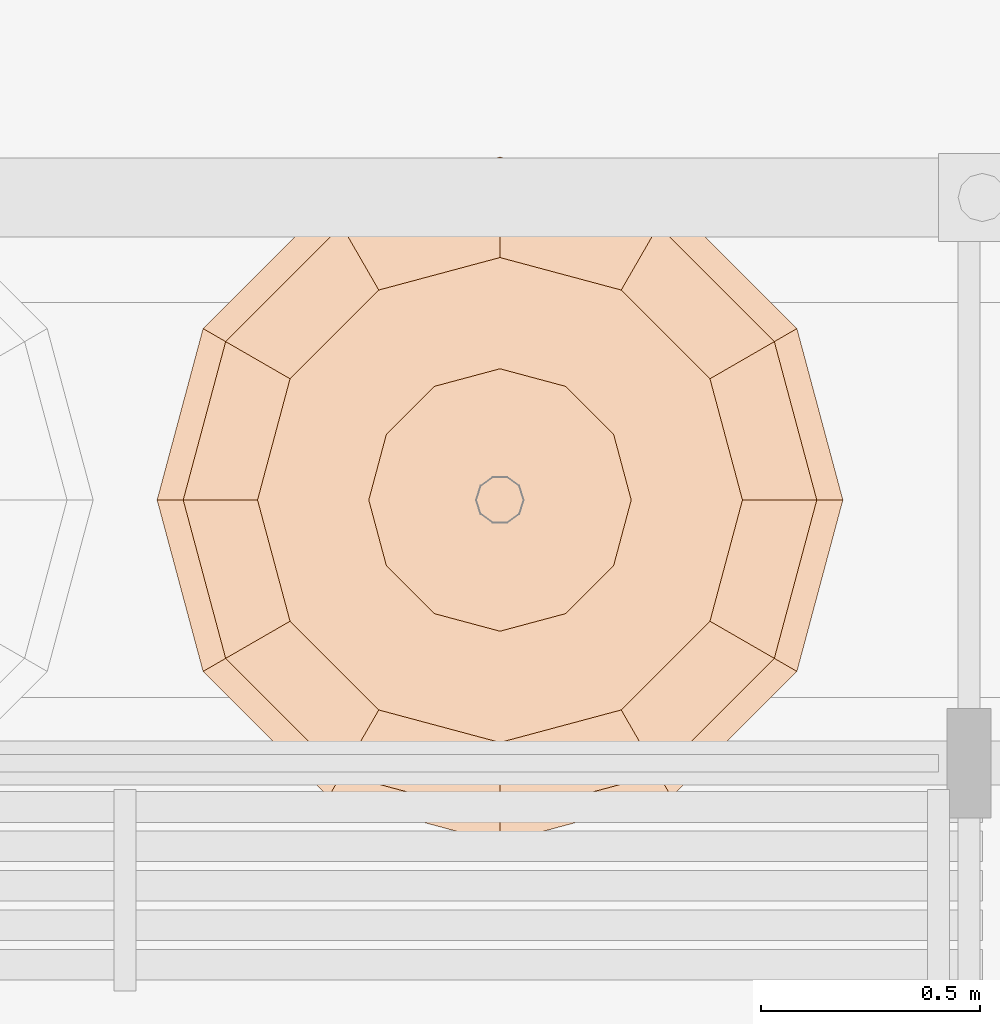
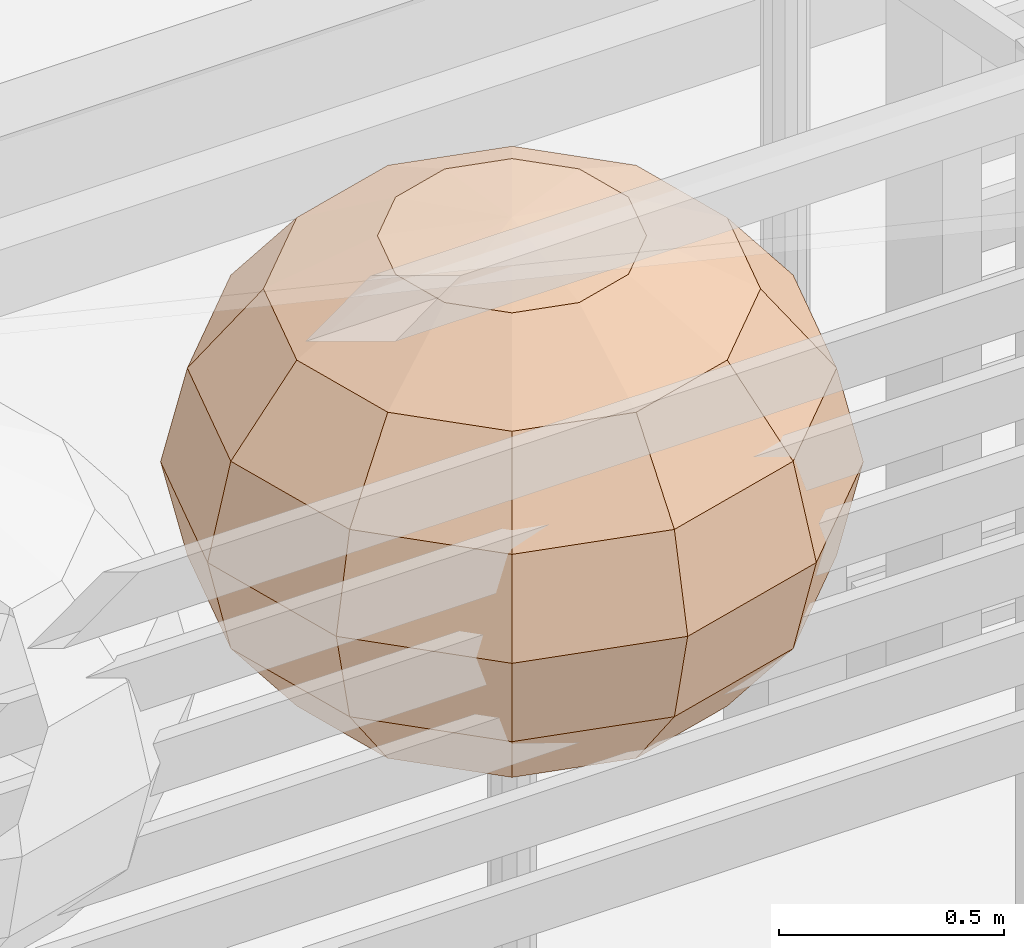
# One storey, part 168 of 177: 1 geographic element.
"""IFC4 building model written with IfcOpenShell, lengths in metres."""

from ifc_helpers import new_model, si_unit, origin, origin_with_axes, place, context, subcontext, project, spatial, triangles, element, save


model = new_model("IFC4")

# Units and contexts
model_context = context("Model", 3, precision=1e-05, world=origin_with_axes())
body_context = subcontext(model_context, "Body", "Model", "MODEL_VIEW")
ifc_project = project(units=[si_unit("LENGTHUNIT", "METRE"), si_unit("AREAUNIT", "SQUARE_METRE"), si_unit("VOLUMEUNIT", "CUBIC_METRE"), si_unit("PLANEANGLEUNIT", "RADIAN")], contexts=[model_context])

# Site, building, storey
site_placement = place(None, origin_with_axes())
site = spatial("IfcSite", under=ifc_project, at=site_placement, Name="Predio Los Mangos - Morales, San Martín", CompositionType="ELEMENT")
building_placement = place(site_placement, origin())
building = spatial("IfcBuilding", under=site, at=building_placement, Name="Hogar de Refugio Temporal", CompositionType="ELEMENT")
storey_placement = place(building_placement, origin())
storey = spatial("IfcBuildingStorey", under=building, at=storey_placement, Name="NIVEL 1 (NPT +0.00)", CompositionType="ELEMENT", Elevation=0.0)

# Geographic element
geographic_element_placement = place(storey_placement, origin())
element("IfcGeographicElement", 1, at=geographic_element_placement, inside=storey, Name="arbol_copa", ObjectType="Árbol", PredefinedType="NOTDEFINED", context=body_context, shape_type="Tessellation", body=[
    triangles([(35.655, 74.4, 2.5172), (35.655, 74.4, 2.5172), (35.655, 74.4, 2.5172), (35.655, 74.4, 2.5172), (35.655, 74.4, 2.5172), (35.655, 74.4, 2.5172), (35.655, 74.4, 2.5172), (35.655, 74.4, 2.5172), (35.655, 74.4, 2.5172), (35.655, 74.4, 2.5172), (35.655, 74.4, 2.5172), (35.655, 74.4, 2.5172), (35.9543, 74.4, 2.4666), (35.9142, 74.5496, 2.4666), (35.8046, 74.6592, 2.4666), (35.655, 74.6993, 2.4666), (35.5054, 74.6592, 2.4666), (35.3958, 74.5496, 2.4666), (35.3557, 74.4, 2.4666), (35.3958, 74.2504, 2.4666), (35.5054, 74.1408, 2.4666), (35.655, 74.1007, 2.4666), (35.8046, 74.1408, 2.4666), (35.9142, 74.2504, 2.4666), (36.208, 74.4, 2.3225), (36.1339, 74.6765, 2.3225), (35.9315, 74.8789, 2.3225), (35.655, 74.953, 2.3225), (35.3785, 74.8789, 2.3225), (35.1761, 74.6765, 2.3225), (35.102, 74.4, 2.3225), (35.1761, 74.1235, 2.3225), (35.3785, 73.9211, 2.3225), (35.655, 73.847, 2.3225), (35.9315, 73.9211, 2.3225), (36.1339, 74.1235, 2.3225), (36.3775, 74.4, 2.1069), (36.2807, 74.7612, 2.1069), (36.0162, 75.0257, 2.1069), (35.655, 75.1225, 2.1069), (35.2938, 75.0257, 2.1069), (35.0293, 74.7612, 2.1069), (34.9325, 74.4, 2.1069), (35.0293, 74.0388, 2.1069), (35.2938, 73.7743, 2.1069), (35.655, 73.6775, 2.1069), (36.0162, 73.7743, 2.1069), (36.2807, 74.0388, 2.1069), (36.437, 74.4, 1.8525), (36.3322, 74.791, 1.8525), (36.046, 75.0772, 1.8525), (35.655, 75.182, 1.8525), (35.264, 75.0772, 1.8525), (34.9778, 74.791, 1.8525), (34.873, 74.4, 1.8525), (34.9778, 74.009, 1.8525), (35.264, 73.7228, 1.8525), (35.655, 73.618, 1.8525), (36.046, 73.7228, 1.8525), (36.3322, 74.009, 1.8525), (36.3775, 74.4, 1.5981), (36.2807, 74.7612, 1.5981), (36.0162, 75.0257, 1.5981), (35.655, 75.1225, 1.5981), (35.2938, 75.0257, 1.5981), (35.0293, 74.7612, 1.5981), (34.9325, 74.4, 1.5981), (35.0293, 74.0388, 1.5981), (35.2938, 73.7743, 1.5981), (35.655, 73.6775, 1.5981), (36.0162, 73.7743, 1.5981), (36.2807, 74.0388, 1.5981), (36.208, 74.4, 1.3825), (36.1339, 74.6765, 1.3825), (35.9315, 74.8789, 1.3825), (35.655, 74.953, 1.3825), (35.3785, 74.8789, 1.3825), (35.1761, 74.6765, 1.3825), (35.102, 74.4, 1.3825), (35.1761, 74.1235, 1.3825), (35.3785, 73.9211, 1.3825), (35.655, 73.847, 1.3825), (35.9315, 73.9211, 1.3825), (36.1339, 74.1235, 1.3825), (35.9543, 74.4, 1.2384), (35.9142, 74.5496, 1.2384), (35.8046, 74.6592, 1.2384), (35.655, 74.6993, 1.2384), (35.5054, 74.6592, 1.2384), (35.3958, 74.5496, 1.2384), (35.3557, 74.4, 1.2384), (35.3958, 74.2504, 1.2384), (35.5054, 74.1408, 1.2384), (35.655, 74.1007, 1.2384), (35.8046, 74.1408, 1.2384), (35.9142, 74.2504, 1.2384), (35.655, 74.4, 1.1878), (35.655, 74.4, 1.1878), (35.655, 74.4, 1.1878), (35.655, 74.4, 1.1878), (35.655, 74.4, 1.1878), (35.655, 74.4, 1.1878), (35.655, 74.4, 1.1878), (35.655, 74.4, 1.1878), (35.655, 74.4, 1.1878), (35.655, 74.4, 1.1878), (35.655, 74.4, 1.1878), (35.655, 74.4, 1.1878)], [[1, 2, 14], [1, 14, 13], [2, 3, 15], [2, 15, 14], [3, 4, 16], [3, 16, 15], [4, 5, 17], [4, 17, 16], [5, 6, 18], [5, 18, 17], [6, 7, 19], [6, 19, 18], [7, 8, 20], [7, 20, 19], [8, 9, 21], [8, 21, 20], [9, 10, 22], [9, 22, 21], [10, 11, 23], [10, 23, 22], [11, 12, 24], [11, 24, 23], [12, 1, 13], [12, 13, 24], [13, 14, 26], [13, 26, 25], [14, 15, 27], [14, 27, 26], [15, 16, 28], [15, 28, 27], [16, 17, 29], [16, 29, 28], [17, 18, 30], [17, 30, 29], [18, 19, 31], [18, 31, 30], [19, 20, 32], [19, 32, 31], [20, 21, 33], [20, 33, 32], [21, 22, 34], [21, 34, 33], [22, 23, 35], [22, 35, 34], [23, 24, 36], [23, 36, 35], [24, 13, 25], [24, 25, 36], [25, 26, 38], [25, 38, 37], [26, 27, 39], [26, 39, 38], [27, 28, 40], [27, 40, 39], [28, 29, 41], [28, 41, 40], [29, 30, 42], [29, 42, 41], [30, 31, 43], [30, 43, 42], [31, 32, 44], [31, 44, 43], [32, 33, 45], [32, 45, 44], [33, 34, 46], [33, 46, 45], [34, 35, 47], [34, 47, 46], [35, 36, 48], [35, 48, 47], [36, 25, 37], [36, 37, 48], [37, 38, 50], [37, 50, 49], [38, 39, 51], [38, 51, 50], [39, 40, 52], [39, 52, 51], [40, 41, 53], [40, 53, 52], [41, 42, 54], [41, 54, 53], [42, 43, 55], [42, 55, 54], [43, 44, 56], [43, 56, 55], [44, 45, 57], [44, 57, 56], [45, 46, 58], [45, 58, 57], [46, 47, 59], [46, 59, 58], [47, 48, 60], [47, 60, 59], [48, 37, 49], [48, 49, 60], [49, 50, 62], [49, 62, 61], [50, 51, 63], [50, 63, 62], [51, 52, 64], [51, 64, 63], [52, 53, 65], [52, 65, 64], [53, 54, 66], [53, 66, 65], [54, 55, 67], [54, 67, 66], [55, 56, 68], [55, 68, 67], [56, 57, 69], [56, 69, 68], [57, 58, 70], [57, 70, 69], [58, 59, 71], [58, 71, 70], [59, 60, 72], [59, 72, 71], [60, 49, 61], [60, 61, 72], [61, 62, 74], [61, 74, 73], [62, 63, 75], [62, 75, 74], [63, 64, 76], [63, 76, 75], [64, 65, 77], [64, 77, 76], [65, 66, 78], [65, 78, 77], [66, 67, 79], [66, 79, 78], [67, 68, 80], [67, 80, 79], [68, 69, 81], [68, 81, 80], [69, 70, 82], [69, 82, 81], [70, 71, 83], [70, 83, 82], [71, 72, 84], [71, 84, 83], [72, 61, 73], [72, 73, 84], [73, 74, 86], [73, 86, 85], [74, 75, 87], [74, 87, 86], [75, 76, 88], [75, 88, 87], [76, 77, 89], [76, 89, 88], [77, 78, 90], [77, 90, 89], [78, 79, 91], [78, 91, 90], [79, 80, 92], [79, 92, 91], [80, 81, 93], [80, 93, 92], [81, 82, 94], [81, 94, 93], [82, 83, 95], [82, 95, 94], [83, 84, 96], [83, 96, 95], [84, 73, 85], [84, 85, 96], [85, 86, 98], [85, 98, 97], [86, 87, 99], [86, 99, 98], [87, 88, 100], [87, 100, 99], [88, 89, 101], [88, 101, 100], [89, 90, 102], [89, 102, 101], [90, 91, 103], [90, 103, 102], [91, 92, 104], [91, 104, 103], [92, 93, 105], [92, 105, 104], [93, 94, 106], [93, 106, 105], [94, 95, 107], [94, 107, 106], [95, 96, 108], [95, 108, 107], [96, 85, 97], [96, 97, 108]]),
])

save(model, "model.ifc")
